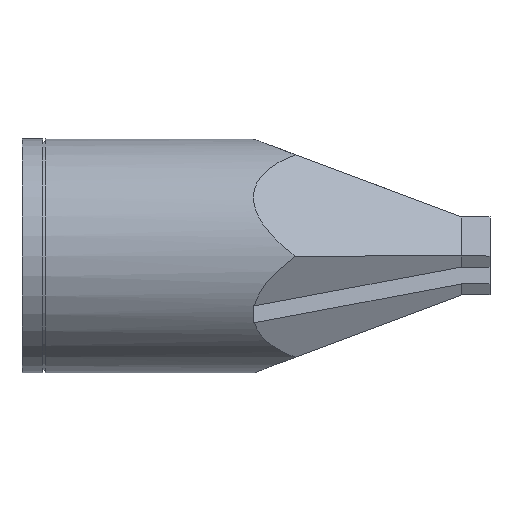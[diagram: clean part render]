
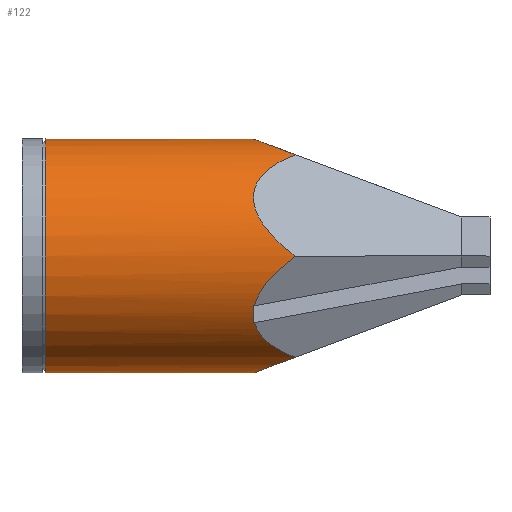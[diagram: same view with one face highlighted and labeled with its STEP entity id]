
A CAD part, left-side view. The second image highlights one B-rep face of the part: STEP entity #122.
In plain terms, the highlighted cylindrical face has radius 9 mm (diameter 18 mm), a full revolution.
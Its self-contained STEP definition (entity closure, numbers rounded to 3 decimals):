
#122 = ADVANCED_FACE( '', ( #247, #248 ), #249, .T. );
#247 = FACE_OUTER_BOUND( '', #369, .T. );
#248 = FACE_OUTER_BOUND( '', #370, .T. );
#249 = CYLINDRICAL_SURFACE( '', #371, 9. );
#369 = EDGE_LOOP( '', ( #641, #642, #643, #644, #645, #646, #647, #648, #649, #650, #651, #652, #653, #654, #655, #656, #657, #658 ) );
#370 = EDGE_LOOP( '', ( #659 ) );
#371 = AXIS2_PLACEMENT_3D( '', #660, #661, #662 );
#641 = ORIENTED_EDGE( '', *, *, #772, .F. );
#642 = ORIENTED_EDGE( '', *, *, #786, .F. );
#643 = ORIENTED_EDGE( '', *, *, #781, .T. );
#644 = ORIENTED_EDGE( '', *, *, #760, .F. );
#645 = ORIENTED_EDGE( '', *, *, #727, .T. );
#646 = ORIENTED_EDGE( '', *, *, #803, .F. );
#647 = ORIENTED_EDGE( '', *, *, #806, .F. );
#648 = ORIENTED_EDGE( '', *, *, #794, .F. );
#649 = ORIENTED_EDGE( '', *, *, #718, .T. );
#650 = ORIENTED_EDGE( '', *, *, #759, .F. );
#651 = ORIENTED_EDGE( '', *, *, #800, .T. );
#652 = ORIENTED_EDGE( '', *, *, #797, .F. );
#653 = ORIENTED_EDGE( '', *, *, #767, .F. );
#654 = ORIENTED_EDGE( '', *, *, #703, .F. );
#655 = ORIENTED_EDGE( '', *, *, #745, .T. );
#656 = ORIENTED_EDGE( '', *, *, #762, .F. );
#657 = ORIENTED_EDGE( '', *, *, #753, .T. );
#658 = ORIENTED_EDGE( '', *, *, #807, .F. );
#659 = ORIENTED_EDGE( '', *, *, #791, .T. );
#660 = CARTESIAN_POINT( '', ( 0., -33.8, 0. ) );
#661 = DIRECTION( '', ( 0., 1., 0. ) );
#662 = DIRECTION( '', ( 0., 0., -1. ) );
#703 = EDGE_CURVE( '', #827, #828, #829, .T. );
#718 = EDGE_CURVE( '', #845, #853, #855, .F. );
#727 = EDGE_CURVE( '', #869, #866, #870, .T. );
#745 = EDGE_CURVE( '', #827, #897, #899, .F. );
#753 = EDGE_CURVE( '', #912, #910, #913, .T. );
#759 = EDGE_CURVE( '', #920, #853, #922, .T. );
#760 = EDGE_CURVE( '', #869, #923, #924, .T. );
#762 = EDGE_CURVE( '', #912, #897, #926, .T. );
#767 = EDGE_CURVE( '', #828, #931, #932, .T. );
#772 = EDGE_CURVE( '', #936, #938, #939, .T. );
#781 = EDGE_CURVE( '', #946, #923, #949, .F. );
#786 = EDGE_CURVE( '', #946, #936, #954, .T. );
#791 = EDGE_CURVE( '', #959, #959, #960, .T. );
#794 = EDGE_CURVE( '', #845, #964, #965, .T. );
#797 = EDGE_CURVE( '', #931, #968, #969, .T. );
#800 = EDGE_CURVE( '', #920, #968, #972, .T. );
#803 = EDGE_CURVE( '', #974, #866, #976, .T. );
#806 = EDGE_CURVE( '', #964, #974, #979, .T. );
#807 = EDGE_CURVE( '', #938, #910, #980, .T. );
#827 = VERTEX_POINT( '', #1004 );
#828 = VERTEX_POINT( '', #1005 );
#829 = ELLIPSE( '', #1006, 25.632, 9. );
#845 = VERTEX_POINT( '', #1029 );
#853 = VERTEX_POINT( '', #1041 );
#855 = LINE( '', #1044, #1045 );
#866 = VERTEX_POINT( '', #1059 );
#869 = VERTEX_POINT( '', #1063 );
#870 = LINE( '', #1064, #1065 );
#897 = VERTEX_POINT( '', #1102 );
#899 = LINE( '', #1105, #1106 );
#910 = VERTEX_POINT( '', #1121 );
#912 = VERTEX_POINT( '', #1124 );
#913 = LINE( '', #1125, #1126 );
#920 = VERTEX_POINT( '', #1136 );
#922 = CIRCLE( '', #1139, 9. );
#923 = VERTEX_POINT( '', #1140 );
#924 = CIRCLE( '', #1141, 9. );
#926 = CIRCLE( '', #1144, 9. );
#931 = VERTEX_POINT( '', #1151 );
#932 = ELLIPSE( '', #1152, 25.632, 9. );
#936 = VERTEX_POINT( '', #1158 );
#938 = VERTEX_POINT( '', #1161 );
#939 = ELLIPSE( '', #1162, 25.632, 9. );
#946 = VERTEX_POINT( '', #1172 );
#949 = LINE( '', #1177, #1178 );
#954 = ELLIPSE( '', #1184, 25.632, 9. );
#959 = VERTEX_POINT( '', #1191 );
#960 = CIRCLE( '', #1192, 9. );
#964 = VERTEX_POINT( '', #1196 );
#965 = ELLIPSE( '', #1197, 25.632, 9. );
#968 = VERTEX_POINT( '', #1201 );
#969 = ELLIPSE( '', #1202, 25.632, 9. );
#972 = LINE( '', #1206, #1207 );
#974 = VERTEX_POINT( '', #1209 );
#976 = ELLIPSE( '', #1212, 25.632, 9. );
#979 = ELLIPSE( '', #1215, 25.632, 9. );
#980 = ELLIPSE( '', #1216, 25.632, 9. );
#1004 = CARTESIAN_POINT( '', ( -0.75, -17.883, 8.969 ) );
#1005 = CARTESIAN_POINT( '', ( -4.5, -21.015, 7.794 ) );
#1006 = AXIS2_PLACEMENT_3D( '', #1231, #1232, #1233 );
#1029 = CARTESIAN_POINT( '', ( -7.392, -17.883, -5.134 ) );
#1041 = CARTESIAN_POINT( '', ( -7.392, -17.8, -5.134 ) );
#1044 = CARTESIAN_POINT( '', ( -7.392, -33.8, -5.134 ) );
#1045 = VECTOR( '', #1246, 1000. );
#1059 = CARTESIAN_POINT( '', ( 7.392, -17.883, -5.134 ) );
#1063 = CARTESIAN_POINT( '', ( 7.392, -17.8, -5.134 ) );
#1064 = CARTESIAN_POINT( '', ( 7.392, -33.8, -5.134 ) );
#1065 = VECTOR( '', #1254, 1000. );
#1102 = CARTESIAN_POINT( '', ( -0.75, -17.8, 8.969 ) );
#1105 = CARTESIAN_POINT( '', ( -0.75, -33.8, 8.969 ) );
#1106 = VECTOR( '', #1272, 1000. );
#1121 = CARTESIAN_POINT( '', ( 0.75, -17.883, 8.969 ) );
#1124 = CARTESIAN_POINT( '', ( 0.75, -17.8, 8.969 ) );
#1125 = CARTESIAN_POINT( '', ( 0.75, -33.8, 8.969 ) );
#1126 = VECTOR( '', #1278, 1000. );
#1136 = CARTESIAN_POINT( '', ( -8.142, -17.8, -3.835 ) );
#1139 = AXIS2_PLACEMENT_3D( '', #1283, #1284, #1285 );
#1140 = CARTESIAN_POINT( '', ( 8.142, -17.8, -3.835 ) );
#1141 = AXIS2_PLACEMENT_3D( '', #1286, #1287, #1288 );
#1144 = AXIS2_PLACEMENT_3D( '', #1290, #1291, #1292 );
#1151 = CARTESIAN_POINT( '', ( -9., -21.015, 0. ) );
#1152 = AXIS2_PLACEMENT_3D( '', #1295, #1296, #1297 );
#1158 = CARTESIAN_POINT( '', ( 9., -21.015, 0. ) );
#1161 = CARTESIAN_POINT( '', ( 4.5, -21.015, 7.794 ) );
#1162 = AXIS2_PLACEMENT_3D( '', #1301, #1302, #1303 );
#1172 = CARTESIAN_POINT( '', ( 8.142, -17.883, -3.835 ) );
#1177 = CARTESIAN_POINT( '', ( 8.142, -33.8, -3.835 ) );
#1178 = VECTOR( '', #1309, 1000. );
#1184 = AXIS2_PLACEMENT_3D( '', #1311, #1312, #1313 );
#1191 = CARTESIAN_POINT( '', ( 0., -1.8, -9. ) );
#1192 = AXIS2_PLACEMENT_3D( '', #1316, #1317, #1318 );
#1196 = CARTESIAN_POINT( '', ( -4.5, -21.015, -7.794 ) );
#1197 = AXIS2_PLACEMENT_3D( '', #1322, #1323, #1324 );
#1201 = CARTESIAN_POINT( '', ( -8.142, -17.883, -3.835 ) );
#1202 = AXIS2_PLACEMENT_3D( '', #1326, #1327, #1328 );
#1206 = CARTESIAN_POINT( '', ( -8.142, -33.8, -3.835 ) );
#1207 = VECTOR( '', #1330, 1000. );
#1209 = CARTESIAN_POINT( '', ( 4.5, -21.015, -7.794 ) );
#1212 = AXIS2_PLACEMENT_3D( '', #1332, #1333, #1334 );
#1215 = AXIS2_PLACEMENT_3D( '', #1335, #1336, #1337 );
#1216 = AXIS2_PLACEMENT_3D( '', #1338, #1339, #1340 );
#1231 = CARTESIAN_POINT( '', ( 0., -41.8, 0. ) );
#1232 = DIRECTION( '', ( 0., -0.351, 0.936 ) );
#1233 = DIRECTION( '', ( 0., -0.936, -0.351 ) );
#1246 = DIRECTION( '', ( 0., -1., 0. ) );
#1254 = DIRECTION( '', ( 0., -1., 0. ) );
#1272 = DIRECTION( '', ( 0., -1., 0. ) );
#1278 = DIRECTION( '', ( 0., -1., 0. ) );
#1283 = CARTESIAN_POINT( '', ( 0., -17.8, 0. ) );
#1284 = DIRECTION( '', ( 0., -1., 0. ) );
#1285 = DIRECTION( '', ( 0., 0., -1. ) );
#1286 = CARTESIAN_POINT( '', ( 0., -17.8, 0. ) );
#1287 = DIRECTION( '', ( 0., -1., 0. ) );
#1288 = DIRECTION( '', ( 0., 0., -1. ) );
#1290 = CARTESIAN_POINT( '', ( 0., -17.8, 0. ) );
#1291 = DIRECTION( '', ( 0., -1., 0. ) );
#1292 = DIRECTION( '', ( 0., 0., -1. ) );
#1295 = CARTESIAN_POINT( '', ( 0., -41.8, 0. ) );
#1296 = DIRECTION( '', ( -0.811, -0.351, 0.468 ) );
#1297 = DIRECTION( '', ( 0.304, -0.936, -0.176 ) );
#1301 = CARTESIAN_POINT( '', ( 0., -41.8, 0. ) );
#1302 = DIRECTION( '', ( 0.811, -0.351, 0.468 ) );
#1303 = DIRECTION( '', ( -0.304, -0.936, -0.176 ) );
#1309 = DIRECTION( '', ( 0., -1., 0. ) );
#1311 = CARTESIAN_POINT( '', ( 0., -41.8, 0. ) );
#1312 = DIRECTION( '', ( 0.811, -0.351, -0.468 ) );
#1313 = DIRECTION( '', ( -0.304, -0.936, 0.176 ) );
#1316 = CARTESIAN_POINT( '', ( 0., -1.8, 0. ) );
#1317 = DIRECTION( '', ( 0., -1., 0. ) );
#1318 = DIRECTION( '', ( 0., 0., -1. ) );
#1322 = CARTESIAN_POINT( '', ( 0., -41.8, 0. ) );
#1323 = DIRECTION( '', ( -0.811, -0.351, -0.468 ) );
#1324 = DIRECTION( '', ( 0.304, -0.936, 0.176 ) );
#1326 = CARTESIAN_POINT( '', ( 0., -41.8, 0. ) );
#1327 = DIRECTION( '', ( -0.811, -0.351, -0.468 ) );
#1328 = DIRECTION( '', ( 0.304, -0.936, 0.176 ) );
#1330 = DIRECTION( '', ( 0., -1., 0. ) );
#1332 = CARTESIAN_POINT( '', ( 0., -41.8, 0. ) );
#1333 = DIRECTION( '', ( 0.811, -0.351, -0.468 ) );
#1334 = DIRECTION( '', ( -0.304, -0.936, 0.176 ) );
#1335 = CARTESIAN_POINT( '', ( 0., -41.8, 0. ) );
#1336 = DIRECTION( '', ( 0., -0.351, -0.936 ) );
#1337 = DIRECTION( '', ( 0., -0.936, 0.351 ) );
#1338 = CARTESIAN_POINT( '', ( 0., -41.8, 0. ) );
#1339 = DIRECTION( '', ( 0., -0.351, 0.936 ) );
#1340 = DIRECTION( '', ( 0., -0.936, -0.351 ) );
